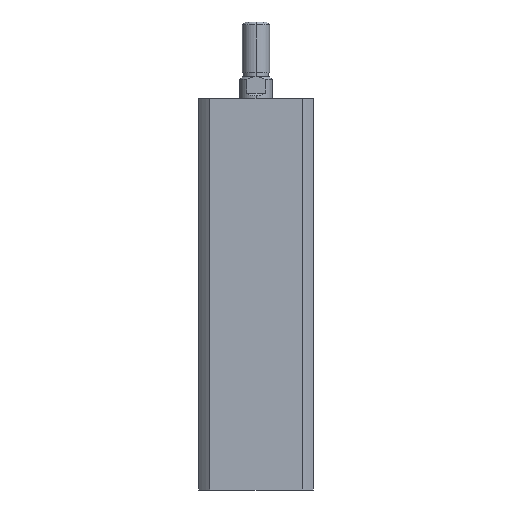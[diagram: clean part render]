
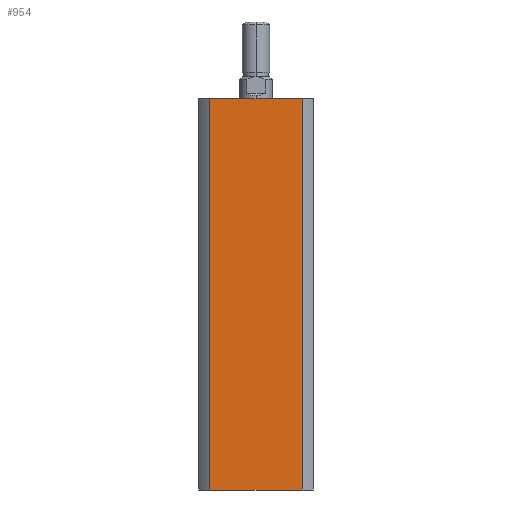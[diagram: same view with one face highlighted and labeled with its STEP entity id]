
A CAD part, left-side view. The second image highlights one B-rep face of the part: STEP entity #954.
In plain terms, the highlighted planar face has unit normal (-1, 0, 0).
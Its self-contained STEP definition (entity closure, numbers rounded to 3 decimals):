
#15 = CARTESIAN_POINT ( 'NONE',  ( -21., 21., 143. ) ) ;
#22 = PLANE ( 'NONE',  #1278 ) ;
#24 = DIRECTION ( 'NONE',  ( 1., 0., 0. ) ) ;
#25 = DIRECTION ( 'NONE',  ( 0., 1., 0. ) ) ;
#954 = ADVANCED_FACE ( 'NONE', ( #4583 ), #22, .F. ) ;
#1278 = AXIS2_PLACEMENT_3D ( 'NONE', #15, #24, #25 ) ;
#1694 = EDGE_CURVE ( 'NONE', #4959, #4962, #2050, .T. ) ;
#1732 = EDGE_CURVE ( 'NONE', #4958, #4411, #2090, .T. ) ;
#1740 = EDGE_CURVE ( 'NONE', #4411, #4962, #2106, .T. ) ;
#1741 = EDGE_CURVE ( 'NONE', #4959, #4958, #2108, .T. ) ;
#2050 = LINE ( 'NONE', #2435, #2052 ) ;
#2052 = VECTOR ( 'NONE', #2431, 1000. ) ;
#2090 = LINE ( 'NONE', #2611, #2095 ) ;
#2095 = VECTOR ( 'NONE', #2605, 1000. ) ;
#2106 = LINE ( 'NONE', #2630, #2109 ) ;
#2108 = LINE ( 'NONE', #2632, #2111 ) ;
#2109 = VECTOR ( 'NONE', #2631, 1000. ) ;
#2111 = VECTOR ( 'NONE', #2633, 1000. ) ;
#2431 = DIRECTION ( 'NONE',  ( 0., -1., 0. ) ) ;
#2435 = CARTESIAN_POINT ( 'NONE',  ( -21., 21., 0. ) ) ;
#2605 = DIRECTION ( 'NONE',  ( 0., -1., 0. ) ) ;
#2611 = CARTESIAN_POINT ( 'NONE',  ( -21., 21., 143. ) ) ;
#2630 = CARTESIAN_POINT ( 'NONE',  ( -21., -16.971, 143. ) ) ;
#2631 = DIRECTION ( 'NONE',  ( 0., 0., -1. ) ) ;
#2632 = CARTESIAN_POINT ( 'NONE',  ( -21., 16.971, 143. ) ) ;
#2633 = DIRECTION ( 'NONE',  ( 0., 0., 1. ) ) ;
#2730 = CARTESIAN_POINT ( 'NONE',  ( -21., -16.971, 143. ) ) ;
#3422 = CARTESIAN_POINT ( 'NONE',  ( -21., 16.971, 143. ) ) ;
#3423 = CARTESIAN_POINT ( 'NONE',  ( -21., 16.971, 0. ) ) ;
#3426 = CARTESIAN_POINT ( 'NONE',  ( -21., -16.971, 0. ) ) ;
#4112 = EDGE_LOOP ( 'NONE', ( #4353, #4354, #4355, #4356 ) ) ;
#4353 = ORIENTED_EDGE ( 'NONE', *, *, #1740, .F. ) ;
#4354 = ORIENTED_EDGE ( 'NONE', *, *, #1732, .F. ) ;
#4355 = ORIENTED_EDGE ( 'NONE', *, *, #1741, .F. ) ;
#4356 = ORIENTED_EDGE ( 'NONE', *, *, #1694, .T. ) ;
#4411 = VERTEX_POINT ( 'NONE', #2730 ) ;
#4583 = FACE_OUTER_BOUND ( 'NONE', #4112, .T. ) ;
#4958 = VERTEX_POINT ( 'NONE', #3422 ) ;
#4959 = VERTEX_POINT ( 'NONE', #3423 ) ;
#4962 = VERTEX_POINT ( 'NONE', #3426 ) ;
